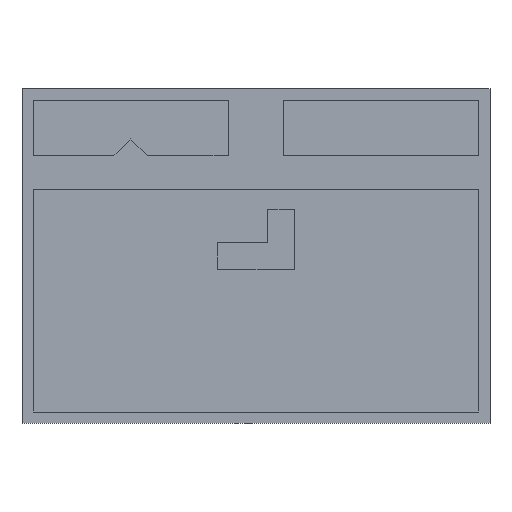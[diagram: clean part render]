
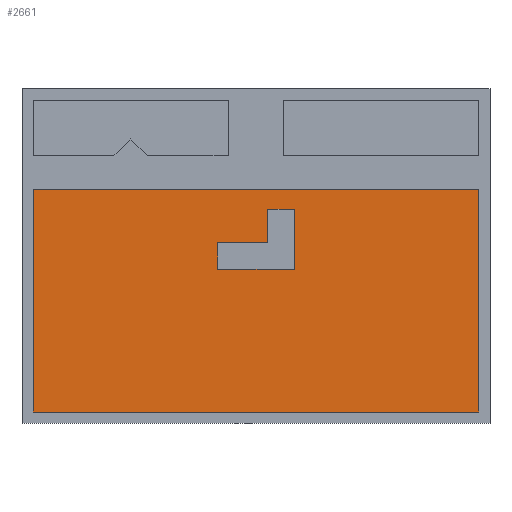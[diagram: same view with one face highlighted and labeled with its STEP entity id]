
A CAD part, front view. The second image highlights one B-rep face of the part: STEP entity #2661.
In plain terms, the highlighted planar face has unit normal (0, -1, 0).
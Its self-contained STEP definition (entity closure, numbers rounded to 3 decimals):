
#16 = CARTESIAN_POINT ( 'NONE',  ( 0.105, -0.065, 0.12 ) ) ;
#44 = VECTOR ( 'NONE', #1971, 1000. ) ;
#76 = LINE ( 'NONE', #7679, #7667 ) ;
#87 = ORIENTED_EDGE ( 'NONE', *, *, #3273, .T. ) ;
#159 = CARTESIAN_POINT ( 'NONE',  ( 2., -0.065, 0.6 ) ) ;
#190 = EDGE_CURVE ( 'NONE', #7303, #6909, #4842, .T. ) ;
#240 = VERTEX_POINT ( 'NONE', #1498 ) ;
#255 = ORIENTED_EDGE ( 'NONE', *, *, #7311, .F. ) ;
#280 = ORIENTED_EDGE ( 'NONE', *, *, #2219, .F. ) ;
#342 = CARTESIAN_POINT ( 'NONE',  ( -2., -0.065, 0.6 ) ) ;
#501 = LINE ( 'NONE', #4825, #6684 ) ;
#599 = VECTOR ( 'NONE', #3829, 1000. ) ;
#681 = VECTOR ( 'NONE', #7714, 1000. ) ;
#701 = DIRECTION ( 'NONE',  ( -1., 0., 0. ) ) ;
#778 = LINE ( 'NONE', #3644, #968 ) ;
#788 = VECTOR ( 'NONE', #2558, 1000. ) ;
#895 = LINE ( 'NONE', #4417, #1725 ) ;
#903 = EDGE_CURVE ( 'NONE', #7363, #7303, #3972, .T. ) ;
#936 = EDGE_CURVE ( 'NONE', #6628, #3650, #6787, .T. ) ;
#968 = VECTOR ( 'NONE', #7223, 1000. ) ;
#1128 = EDGE_CURVE ( 'NONE', #7663, #3158, #501, .T. ) ;
#1187 = CARTESIAN_POINT ( 'NONE',  ( 2., -0.065, -1.4 ) ) ;
#1348 = CARTESIAN_POINT ( 'NONE',  ( -0.345, -0.065, -0.12 ) ) ;
#1408 = CARTESIAN_POINT ( 'NONE',  ( 0., -0.065, 0. ) ) ;
#1498 = CARTESIAN_POINT ( 'NONE',  ( 0.345, -0.065, -0.12 ) ) ;
#1725 = VECTOR ( 'NONE', #7383, 1000. ) ;
#1961 = CARTESIAN_POINT ( 'NONE',  ( -0.345, -0.065, 0.12 ) ) ;
#1971 = DIRECTION ( 'NONE',  ( -1., 0., 0. ) ) ;
#2050 = CARTESIAN_POINT ( 'NONE',  ( 0.345, -0.065, 0.42 ) ) ;
#2219 = EDGE_CURVE ( 'NONE', #3158, #6628, #4576, .T. ) ;
#2299 = ORIENTED_EDGE ( 'NONE', *, *, #1128, .F. ) ;
#2335 = CARTESIAN_POINT ( 'NONE',  ( 0.345, -0.065, 0.42 ) ) ;
#2450 = LINE ( 'NONE', #2335, #681 ) ;
#2558 = DIRECTION ( 'NONE',  ( 0., 0., 1. ) ) ;
#2637 = DIRECTION ( 'NONE',  ( 0., 1., 0. ) ) ;
#2661 = ADVANCED_FACE ( 'NONE', ( #5402, #6811 ), #5035, .F. ) ;
#3158 = VERTEX_POINT ( 'NONE', #6085 ) ;
#3222 = EDGE_CURVE ( 'NONE', #3650, #240, #5297, .T. ) ;
#3273 = EDGE_CURVE ( 'NONE', #4561, #7363, #895, .T. ) ;
#3550 = CARTESIAN_POINT ( 'NONE',  ( -0.345, -0.065, 0.12 ) ) ;
#3644 = CARTESIAN_POINT ( 'NONE',  ( 0.345, -0.065, -0.12 ) ) ;
#3650 = VERTEX_POINT ( 'NONE', #5343 ) ;
#3711 = DIRECTION ( 'NONE',  ( 0., 0., -1. ) ) ;
#3829 = DIRECTION ( 'NONE',  ( 0., 0., -1. ) ) ;
#3972 = LINE ( 'NONE', #159, #788 ) ;
#4195 = AXIS2_PLACEMENT_3D ( 'NONE', #1408, #2637, #6840 ) ;
#4416 = CARTESIAN_POINT ( 'NONE',  ( 2., -0.065, 0.6 ) ) ;
#4417 = CARTESIAN_POINT ( 'NONE',  ( 2., -0.065, -1.4 ) ) ;
#4561 = VERTEX_POINT ( 'NONE', #6281 ) ;
#4576 = LINE ( 'NONE', #16, #5397 ) ;
#4801 = EDGE_CURVE ( 'NONE', #6909, #4561, #76, .T. ) ;
#4825 = CARTESIAN_POINT ( 'NONE',  ( 0.105, -0.065, 0.42 ) ) ;
#4842 = LINE ( 'NONE', #342, #44 ) ;
#4931 = ORIENTED_EDGE ( 'NONE', *, *, #936, .F. ) ;
#4963 = DIRECTION ( 'NONE',  ( 1., 0., 0. ) ) ;
#5035 = PLANE ( 'NONE',  #4195 ) ;
#5297 = LINE ( 'NONE', #1348, #5481 ) ;
#5343 = CARTESIAN_POINT ( 'NONE',  ( -0.345, -0.065, -0.12 ) ) ;
#5397 = VECTOR ( 'NONE', #701, 1000. ) ;
#5402 = FACE_OUTER_BOUND ( 'NONE', #7766, .T. ) ;
#5481 = VECTOR ( 'NONE', #4963, 1000. ) ;
#5771 = ORIENTED_EDGE ( 'NONE', *, *, #190, .T. ) ;
#5847 = CARTESIAN_POINT ( 'NONE',  ( -2., -0.065, 0.6 ) ) ;
#5889 = DIRECTION ( 'NONE',  ( 0., 0., -1. ) ) ;
#6085 = CARTESIAN_POINT ( 'NONE',  ( 0.105, -0.065, 0.12 ) ) ;
#6280 = EDGE_LOOP ( 'NONE', ( #7003, #7661, #4931, #280, #2299, #255 ) ) ;
#6281 = CARTESIAN_POINT ( 'NONE',  ( -2., -0.065, -1.4 ) ) ;
#6314 = CARTESIAN_POINT ( 'NONE',  ( 0.105, -0.065, 0.42 ) ) ;
#6329 = ORIENTED_EDGE ( 'NONE', *, *, #4801, .T. ) ;
#6395 = VERTEX_POINT ( 'NONE', #2050 ) ;
#6628 = VERTEX_POINT ( 'NONE', #1961 ) ;
#6684 = VECTOR ( 'NONE', #3711, 1000. ) ;
#6787 = LINE ( 'NONE', #3550, #599 ) ;
#6811 = FACE_BOUND ( 'NONE', #6280, .T. ) ;
#6840 = DIRECTION ( 'NONE',  ( 0., 0., 1. ) ) ;
#6909 = VERTEX_POINT ( 'NONE', #5847 ) ;
#7003 = ORIENTED_EDGE ( 'NONE', *, *, #7080, .F. ) ;
#7080 = EDGE_CURVE ( 'NONE', #240, #6395, #778, .T. ) ;
#7202 = ORIENTED_EDGE ( 'NONE', *, *, #903, .T. ) ;
#7223 = DIRECTION ( 'NONE',  ( 0., 0., 1. ) ) ;
#7303 = VERTEX_POINT ( 'NONE', #4416 ) ;
#7311 = EDGE_CURVE ( 'NONE', #6395, #7663, #2450, .T. ) ;
#7363 = VERTEX_POINT ( 'NONE', #1187 ) ;
#7383 = DIRECTION ( 'NONE',  ( 1., 0., 0. ) ) ;
#7661 = ORIENTED_EDGE ( 'NONE', *, *, #3222, .F. ) ;
#7663 = VERTEX_POINT ( 'NONE', #6314 ) ;
#7667 = VECTOR ( 'NONE', #5889, 1000. ) ;
#7679 = CARTESIAN_POINT ( 'NONE',  ( -2., -0.065, -1.4 ) ) ;
#7714 = DIRECTION ( 'NONE',  ( -1., 0., 0. ) ) ;
#7766 = EDGE_LOOP ( 'NONE', ( #7202, #5771, #6329, #87 ) ) ;
